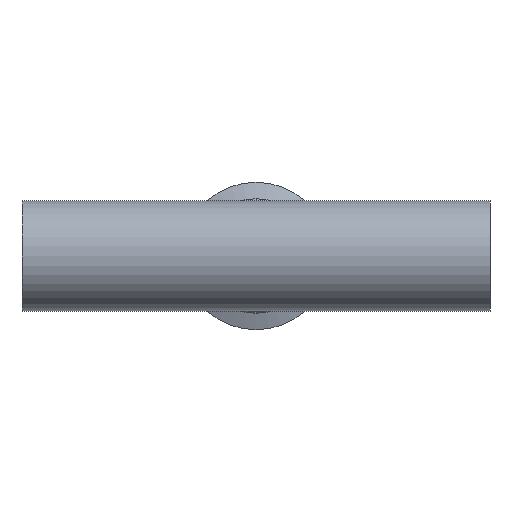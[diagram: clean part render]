
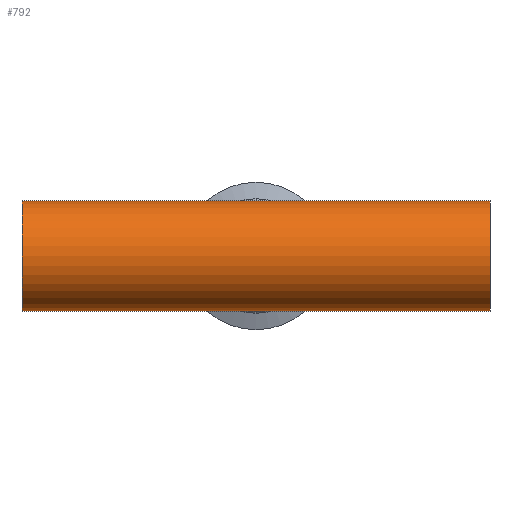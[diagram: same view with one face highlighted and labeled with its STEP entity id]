
A CAD part, front view. The second image highlights one B-rep face of the part: STEP entity #792.
In plain terms, the highlighted cylindrical face has radius 12.7 mm (diameter 25.4 mm), a partial arc.
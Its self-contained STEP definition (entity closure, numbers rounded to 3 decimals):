
#110 = CARTESIAN_POINT ( 'NONE',  ( -54., 0., 12.7 ) ) ;
#113 = VECTOR ( 'NONE', #305, 1000. ) ;
#118 = CARTESIAN_POINT ( 'NONE',  ( 0., 0., -12.7 ) ) ;
#124 = CARTESIAN_POINT ( 'NONE',  ( -54., 0., -12.7 ) ) ;
#131 = LINE ( 'NONE', #1156, #113 ) ;
#142 = CARTESIAN_POINT ( 'NONE',  ( -54., 0., -12.7 ) ) ;
#187 = DIRECTION ( 'NONE',  ( 1., 0., 0. ) ) ;
#221 = VERTEX_POINT ( 'NONE', #110 ) ;
#223 = VERTEX_POINT ( 'NONE', #118 ) ;
#224 = DIRECTION ( 'NONE',  ( 0., 0., -1. ) ) ;
#247 = CARTESIAN_POINT ( 'NONE',  ( -54., 0., -12.7 ) ) ;
#258 = AXIS2_PLACEMENT_3D ( 'NONE', #1086, #527, #336 ) ;
#259 = CIRCLE ( 'NONE', #1106, 12.7 ) ;
#305 = DIRECTION ( 'NONE',  ( 1., 0., 0. ) ) ;
#336 = DIRECTION ( 'NONE',  ( 0., 0., -1. ) ) ;
#358 = EDGE_CURVE ( 'NONE', #1034, #839, #573, .T. ) ;
#362 = EDGE_CURVE ( 'NONE', #223, #609, #665, .T. ) ;
#381 = EDGE_CURVE ( 'NONE', #1173, #223, #479, .T. ) ;
#400 = CARTESIAN_POINT ( 'NONE',  ( -54., 0., 12.7 ) ) ;
#436 = ORIENTED_EDGE ( 'NONE', *, *, #362, .T. ) ;
#447 = DIRECTION ( 'NONE',  ( 1., 0., 0. ) ) ;
#448 = ORIENTED_EDGE ( 'NONE', *, *, #1101, .T. ) ;
#450 = CIRCLE ( 'NONE', #493, 12.7 ) ;
#466 = VECTOR ( 'NONE', #187, 1000. ) ;
#479 = LINE ( 'NONE', #124, #466 ) ;
#493 = AXIS2_PLACEMENT_3D ( 'NONE', #1084, #1079, #224 ) ;
#527 = DIRECTION ( 'NONE',  ( 1., 0., 0. ) ) ;
#528 = VECTOR ( 'NONE', #447, 1000. ) ;
#535 = DIRECTION ( 'NONE',  ( 1., 0., 0. ) ) ;
#573 = LINE ( 'NONE', #400, #528 ) ;
#602 = EDGE_LOOP ( 'NONE', ( #706, #1054, #749, #436, #448, #1027 ) ) ;
#609 = VERTEX_POINT ( 'NONE', #980 ) ;
#617 = EDGE_CURVE ( 'NONE', #221, #1034, #131, .T. ) ;
#643 = CYLINDRICAL_SURFACE ( 'NONE', #258, 12.7 ) ;
#665 = LINE ( 'NONE', #247, #1078 ) ;
#706 = ORIENTED_EDGE ( 'NONE', *, *, #617, .F. ) ;
#741 = CARTESIAN_POINT ( 'NONE',  ( 0., 0., 12.7 ) ) ;
#749 = ORIENTED_EDGE ( 'NONE', *, *, #381, .T. ) ;
#792 = ADVANCED_FACE ( 'NONE', ( #824 ), #643, .T. ) ;
#824 = FACE_OUTER_BOUND ( 'NONE', #602, .T. ) ;
#839 = VERTEX_POINT ( 'NONE', #859 ) ;
#859 = CARTESIAN_POINT ( 'NONE',  ( 54., 0., 12.7 ) ) ;
#965 = CARTESIAN_POINT ( 'NONE',  ( 54., 0., 0. ) ) ;
#973 = DIRECTION ( 'NONE',  ( -1., 0., 0. ) ) ;
#979 = DIRECTION ( 'NONE',  ( 0., 0., -1. ) ) ;
#980 = CARTESIAN_POINT ( 'NONE',  ( 54., 0., -12.7 ) ) ;
#1027 = ORIENTED_EDGE ( 'NONE', *, *, #358, .F. ) ;
#1034 = VERTEX_POINT ( 'NONE', #741 ) ;
#1054 = ORIENTED_EDGE ( 'NONE', *, *, #1166, .T. ) ;
#1078 = VECTOR ( 'NONE', #535, 1000. ) ;
#1079 = DIRECTION ( 'NONE',  ( 1., 0., 0. ) ) ;
#1084 = CARTESIAN_POINT ( 'NONE',  ( -54., 0., 0. ) ) ;
#1086 = CARTESIAN_POINT ( 'NONE',  ( -54., 0., 0. ) ) ;
#1101 = EDGE_CURVE ( 'NONE', #609, #839, #259, .T. ) ;
#1106 = AXIS2_PLACEMENT_3D ( 'NONE', #965, #973, #979 ) ;
#1156 = CARTESIAN_POINT ( 'NONE',  ( -54., 0., 12.7 ) ) ;
#1166 = EDGE_CURVE ( 'NONE', #221, #1173, #450, .T. ) ;
#1173 = VERTEX_POINT ( 'NONE', #142 ) ;
